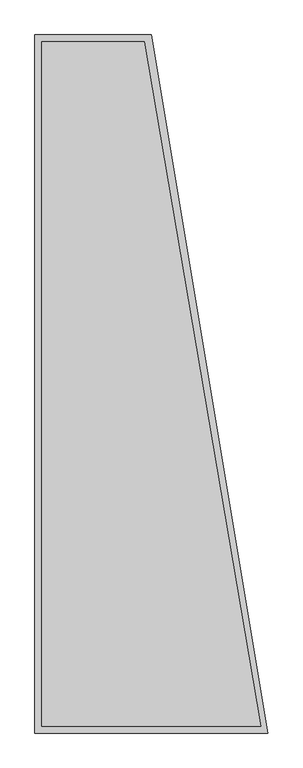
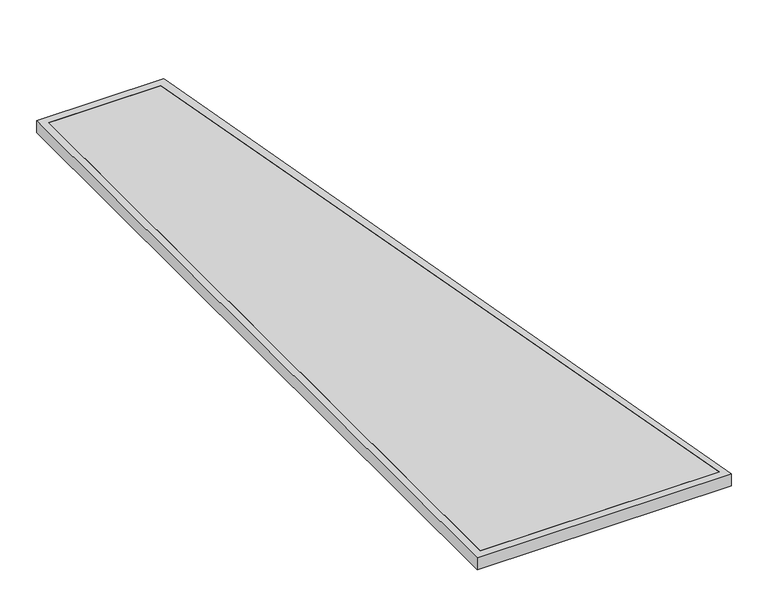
"""IFC4 building model written with IfcOpenShell, lengths in millimetres: light fixture geometry, OWA Trapeze LED : 400/200x1200x83 Trapeze LED A satin finish."""

import ifcopenshell
import ifcopenshell.guid

model = None  # the IFC model being written
_history = None  # IfcOwnerHistory: only IFC2X3 demands one
_inside = {}  # id of a spatial element -> (the spatial element, [elements in it])
_under = {}  # id of a project, library or spatial element -> (it, [spatial elements below it])
_declared = {}  # id of a project -> (the project, [libraries it declares])
_typed = {}  # id of a type object -> (the type object, [elements of that type])
_made_of = {}  # id of a material, layer set ... -> (it, [elements and type objects made of it])


def new_model(schema):
    """Start an empty IFC model of exactly this schema.

    Asked for "IFC4X3", IfcOpenShell would pick the latest addendum, in which some entities
    have other attributes; the version numbers below select the first issue.
    IFC2X3 requires an IfcOwnerHistory on every rooted entity: one is made here for all.
    """
    global model, _history
    if schema == "IFC4X3":
        model = ifcopenshell.file(schema_version=(4, 3, 0, 0))
    else:
        model = ifcopenshell.file(schema=schema)
    _inside.clear()
    _under.clear()
    _declared.clear()
    _typed.clear()
    _made_of.clear()
    _history = None
    if model.schema == "IFC2X3":
        org = make("IfcOrganization", Name="unknown")
        user = make(
            "IfcPersonAndOrganization",
            ThePerson=make("IfcPerson", FamilyName="unknown"),
            TheOrganization=org,
        )
        app = make(
            "IfcApplication",
            ApplicationDeveloper=org,
            Version="unknown",
            ApplicationFullName="unknown",
            ApplicationIdentifier="unknown",
        )
        _history = make(
            "IfcOwnerHistory",
            OwningUser=user,
            OwningApplication=app,
            ChangeAction="ADDED",
            CreationDate=0,
        )
    return model


def make(cls, **values):
    """One entity of the class cls with the attributes given. An attribute that is None is left unset."""
    return model.create_entity(
        cls, **{name: value for name, value in values.items() if value is not None}
    )


def rooted(cls, **values):
    """An entity with a GlobalId (a new one), such as an element, a storey or a relation."""
    return make(cls, GlobalId=ifcopenshell.guid.new(), OwnerHistory=_history, **values)


def si_unit(unit_type, name, prefix=None):
    """IfcSIUnit, for example si_unit("LENGTHUNIT", "METRE", prefix="MILLI")."""
    return make("IfcSIUnit", UnitType=unit_type, Prefix=prefix, Name=name)


def assignment(units):
    """IfcUnitAssignment: the units of a project."""
    return None if units is None else make("IfcUnitAssignment", Units=units)


def point(xyz):
    """IfcCartesianPoint."""
    return None if xyz is None else make("IfcCartesianPoint", Coordinates=xyz)


def direction(xyz):
    """IfcDirection."""
    return None if xyz is None else make("IfcDirection", DirectionRatios=xyz)


def frame(location, z_axis=None, x_axis=None):
    """IfcAxis2Placement3D, a coordinate frame: its origin and axes. An axis left out is left unset."""
    return make(
        "IfcAxis2Placement3D",
        Location=point(location),
        Axis=direction(z_axis),
        RefDirection=direction(x_axis),
    )


def origin():
    """The frame at (0, 0, 0) with its axes left unset."""
    return frame((0.0, 0.0, 0.0))


def place(relative_to, where):
    """IfcLocalPlacement: puts the frame where relative to a parent placement (None: the world)."""
    return make(
        "IfcLocalPlacement", PlacementRelTo=relative_to, RelativePlacement=where
    )


def context(
    kind, dimensions, precision=None, world=None, true_north=None, identifier=None
):
    """IfcGeometricRepresentationContext, for example the 3D "Model" context."""
    return make(
        "IfcGeometricRepresentationContext",
        ContextIdentifier=identifier,
        ContextType=kind,
        CoordinateSpaceDimension=dimensions,
        Precision=precision,
        WorldCoordinateSystem=world,
        TrueNorth=true_north,
    )


def project(units=None, contexts=None):
    """IfcProject with its units and contexts."""
    return rooted(
        "IfcProject",
        Name="project",
        RepresentationContexts=contexts,
        UnitsInContext=assignment(units),
    )


def spatial(cls, under=None, at=None, **own):
    """A site, building, storey or space (cls), placed at a placement, below another one or the project."""
    s = rooted(cls, ObjectPlacement=at, **own)
    if under is not None:
        _under.setdefault(under.id(), (under, []))[1].append(s)
    return s


def polyline(points):
    """IfcPolyline through the points."""
    return make("IfcPolyline", Points=[point(p) for p in points])


def outline(outer, holes=None, kind="AREA"):
    """IfcArbitraryClosedProfileDef: a profile drawn as a closed curve; with holes, ...WithVoids."""
    if holes is None:
        return make("IfcArbitraryClosedProfileDef", ProfileType=kind, OuterCurve=outer)
    return make(
        "IfcArbitraryProfileDefWithVoids",
        ProfileType=kind,
        OuterCurve=outer,
        InnerCurves=holes,
    )


def extrude(swept, where, along, depth):
    """IfcExtrudedAreaSolid: the profile swept, set in the frame where, extruded along a direction by depth."""
    return make(
        "IfcExtrudedAreaSolid",
        SweptArea=swept,
        Position=where,
        ExtrudedDirection=direction(along),
        Depth=depth,
    )


def shape(context_of_items, identifier, shape_type, items):
    """IfcShapeRepresentation: the items that make up one representation, for example the "Body"."""
    return make(
        "IfcShapeRepresentation",
        ContextOfItems=context_of_items,
        RepresentationIdentifier=identifier,
        RepresentationType=shape_type,
        Items=items,
    )


def source(mapping_origin, context_of_items, identifier, shape_type, items):
    """IfcRepresentationMap: a shape defined once, which mapped items show again and again."""
    return make(
        "IfcRepresentationMap",
        MappingOrigin=mapping_origin,
        MappedRepresentation=shape(context_of_items, identifier, shape_type, items),
    )


def transform(
    local_origin,
    x_axis=None,
    y_axis=None,
    z_axis=None,
    scale=None,
    scale2=None,
    scale3=None,
    uniform=True,
):
    """IfcCartesianTransformationOperator3D, or its non-uniform kind. x_axis, y_axis, z_axis: its Axis1, 2, 3."""
    if uniform:
        return make(
            "IfcCartesianTransformationOperator3D",
            Axis1=direction(x_axis),
            Axis2=direction(y_axis),
            LocalOrigin=point(local_origin),
            Scale=scale,
            Axis3=direction(z_axis),
        )
    return make(
        "IfcCartesianTransformationOperator3DnonUniform",
        Axis1=direction(x_axis),
        Axis2=direction(y_axis),
        LocalOrigin=point(local_origin),
        Scale=scale,
        Axis3=direction(z_axis),
        Scale2=scale2,
        Scale3=scale3,
    )


def mapped(mapping_source, mapping_target):
    """IfcMappedItem: shows the shape of a source again, moved by a transform."""
    return make(
        "IfcMappedItem", MappingSource=mapping_source, MappingTarget=mapping_target
    )


def made_of(thing, what):
    """Note that an element or type object is made of a material, layer set ...; save() writes the relation."""
    if what is not None:
        _made_of.setdefault(what.id(), (what, []))[1].append(thing)
    return thing


def element(
    cls,
    number,
    at=None,
    inside=None,
    cuts=None,
    type_object=None,
    material=None,
    context=None,
    identifier="Body",
    shape_type=None,
    held_by="IfcProductDefinitionShape",
    body=None,
    shapes=None,
    **own,
):
    """One element of the class cls, such as IfcWall. Its Tag is "e" and its number.

    at: its placement. inside: the storey or other place that contains it. cuts: it is an
    opening in that element (IfcRelVoidsElement). A single representation is given by context,
    identifier, shape_type and body (its items); several are given by shapes. held_by: the class
    of the entity that holds the representations. save() writes the other relations.
    """
    e = rooted(cls, Tag="e%d" % number, ObjectPlacement=at, **own)
    if body is not None:
        shapes = [shape(context, identifier, shape_type, body)]
    if shapes is not None:
        e.Representation = make(held_by, Representations=shapes)
    if inside is not None:
        _inside.setdefault(inside.id(), (inside, []))[1].append(e)
    if cuts is not None:
        rooted(
            "IfcRelVoidsElement", RelatingBuildingElement=cuts, RelatedOpeningElement=e
        )
    if type_object is not None:
        _typed.setdefault(type_object.id(), (type_object, []))[1].append(e)
    return made_of(e, material)


def aggregate(whole, parts):
    """IfcRelAggregates: a whole, such as a stair, and the parts it consists of."""
    return rooted("IfcRelAggregates", RelatingObject=whole, RelatedObjects=parts)


def save(model, path):
    """Write the relations noted so far, then the file.

    IfcRelAggregates (storeys below a building ...), IfcRelContainedInSpatialStructure (elements
    in a storey), IfcRelDefinesByType, IfcRelAssociatesMaterial and IfcRelDeclares: one each for
    every whole, place, type object, material and project.
    """
    for whole, parts in _under.values():
        aggregate(whole, parts)
    for where, things in _inside.values():
        rooted(
            "IfcRelContainedInSpatialStructure",
            RelatedElements=things,
            RelatingStructure=where,
        )
    for kind, things in _typed.values():
        rooted("IfcRelDefinesByType", RelatedObjects=things, RelatingType=kind)
    for what, things in _made_of.values():
        rooted("IfcRelAssociatesMaterial", RelatedObjects=things, RelatingMaterial=what)
    for by, libraries in _declared.values():
        rooted("IfcRelDeclares", RelatingContext=by, RelatedDefinitions=libraries)
    model.write(path)


def light_fixture_2ed42478(model_context):
    return source(origin(), model_context, "Body", "SweptSolid", [
        extrude(outline(polyline([(200.0, -600.0), (-200.0, -600.0), (-200.0, 600.0), (0.0, 600.0), (200.0, -600.0)]), holes=[polyline([(188.0, -588.0), (-12.0, 588.0), (-188.0, 588.0), (-188.0, -588.0), (188.0, -588.0)])]), frame((0.0, 0.0, 4000.0), z_axis=(0.0, 0.0, 1.0), x_axis=(1.0, 0.0, 0.0)), (0.0, 0.0, 1.0), 20.0),
        extrude(outline(polyline([(188.0, -588.0), (-188.0, -588.0), (-188.0, 588.0), (-12.0, 588.0), (188.0, -588.0)])), frame((0.0, 0.0, 4000.0), z_axis=(0.0, 0.0, 1.0), x_axis=(1.0, 0.0, 0.0)), (0.0, 0.0, 1.0), 20.0),
    ])


if __name__ == "__main__":
    model = new_model("IFC4")
    model_context = context("Model", 3, world=origin())
    ifc_project = project(units=[si_unit("LENGTHUNIT", "METRE", prefix="MILLI")], contexts=[model_context])
    site = spatial("IfcSite", under=ifc_project)
    building = spatial("IfcBuilding", under=site)
    placement = place(None, origin())
    light_fixture_shape = light_fixture_2ed42478(model_context)
    element("IfcLightFixture", 1, ObjectType="OWA Trapeze LED : 400/200x1200x83 Trapeze LED A satin finish", at=placement, inside=building, context=model_context, shape_type="MappedRepresentation", body=[
        mapped(light_fixture_shape, transform((0.0, 0.0, 0.0), x_axis=(1.0, 0.0, 0.0), y_axis=(0.0, 1.0, 0.0), z_axis=(0.0, 0.0, 1.0))),
    ])
    save(model, "model.ifc")
